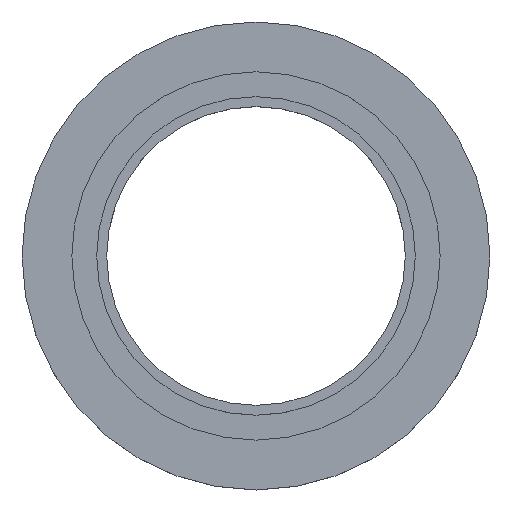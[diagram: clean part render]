
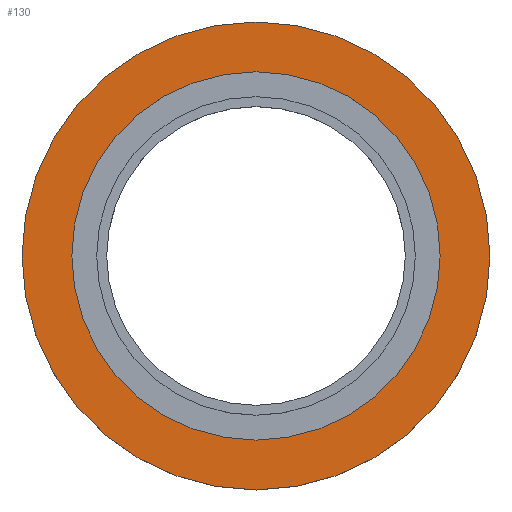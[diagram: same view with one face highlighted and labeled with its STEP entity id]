
A CAD part, top view. The second image highlights one B-rep face of the part: STEP entity #130.
In plain terms, the highlighted planar face has unit normal (0, 0, 1).
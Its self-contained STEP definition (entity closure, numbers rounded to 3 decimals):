
#28=FACE_BOUND('',#44,.T.);
#34=FACE_OUTER_BOUND('',#43,.T.);
#43=EDGE_LOOP('',(#104,#105));
#44=EDGE_LOOP('',(#106));
#54=CIRCLE('',#160,18.5);
#55=CIRCLE('',#162,23.5);
#56=CIRCLE('',#163,23.5);
#66=VERTEX_POINT('',#230);
#67=VERTEX_POINT('',#234);
#68=VERTEX_POINT('',#235);
#78=EDGE_CURVE('',#66,#66,#54,.T.);
#80=EDGE_CURVE('',#67,#68,#55,.T.);
#81=EDGE_CURVE('',#68,#67,#56,.T.);
#104=ORIENTED_EDGE('',*,*,#80,.T.);
#105=ORIENTED_EDGE('',*,*,#81,.T.);
#106=ORIENTED_EDGE('',*,*,#78,.T.);
#124=PLANE('',#166);
#130=ADVANCED_FACE('',(#34,#28),#124,.T.);
#160=AXIS2_PLACEMENT_3D('',#231,#187,#188);
#162=AXIS2_PLACEMENT_3D('',#236,#192,#193);
#163=AXIS2_PLACEMENT_3D('',#237,#194,#195);
#166=AXIS2_PLACEMENT_3D('',#243,#201,#202);
#187=DIRECTION('center_axis',(0.,0.,-1.));
#188=DIRECTION('ref_axis',(-1.,0.,0.));
#192=DIRECTION('center_axis',(0.,0.,1.));
#193=DIRECTION('ref_axis',(1.,0.,0.));
#194=DIRECTION('center_axis',(0.,0.,1.));
#195=DIRECTION('ref_axis',(1.,0.,0.));
#201=DIRECTION('center_axis',(0.,0.,1.));
#202=DIRECTION('ref_axis',(1.,0.,0.));
#230=CARTESIAN_POINT('',(18.5,0.,2.5));
#231=CARTESIAN_POINT('Origin',(0.,0.,2.5));
#234=CARTESIAN_POINT('',(23.5,0.,2.5));
#235=CARTESIAN_POINT('',(-23.5,0.,2.5));
#236=CARTESIAN_POINT('Origin',(0.,0.,2.5));
#237=CARTESIAN_POINT('Origin',(0.,0.,2.5));
#243=CARTESIAN_POINT('Origin',(0.,0.,2.5));
